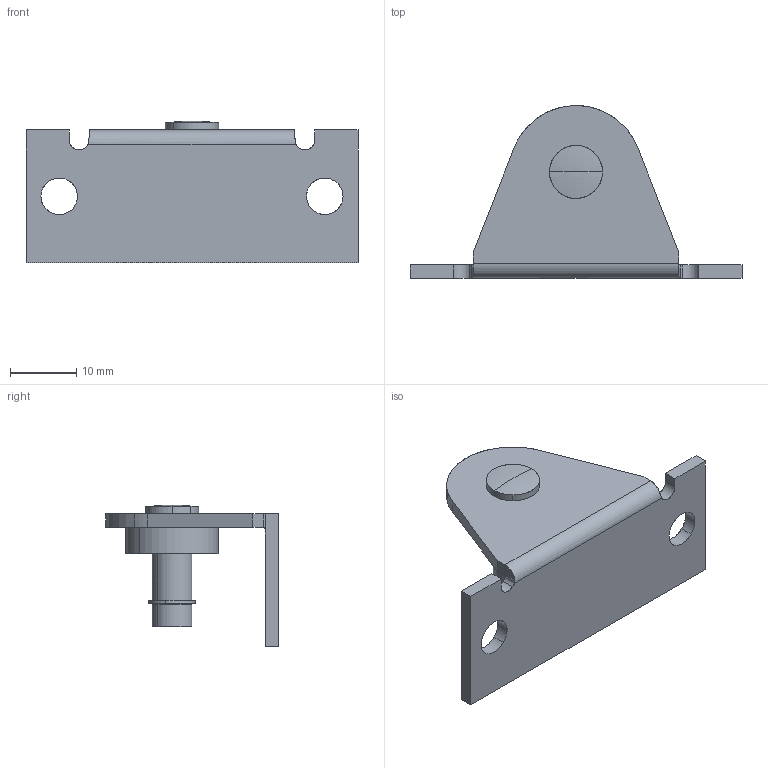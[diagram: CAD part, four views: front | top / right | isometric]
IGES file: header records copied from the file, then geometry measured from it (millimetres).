
Start section: SolidWorks IGES file using analytic representation for surfaces
Global section: file name: C:\3D-DATA\型式\ガススプリング\取付金具\ACEデータ\NA5.IGS; native system: SolidWorks 2007; preprocessor: SolidWorks 2007; author: SW; date: 120619.101833; units: millimetre
Bounding box: 50 x 26 x 21.29 mm (x, y, z)
Surface area: 4220.3 mm2 (no closed solid volume)
Topology: 0 solids, 0 shells, 81 faces, 1137 edges, 1137 vertices
Faces by surface type: revolution 52, bspline 29
